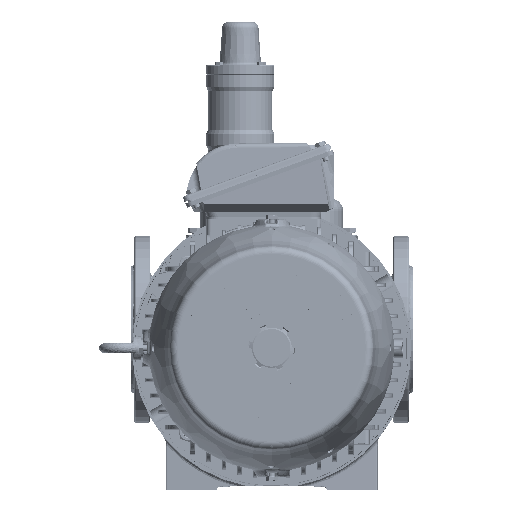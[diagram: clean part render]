
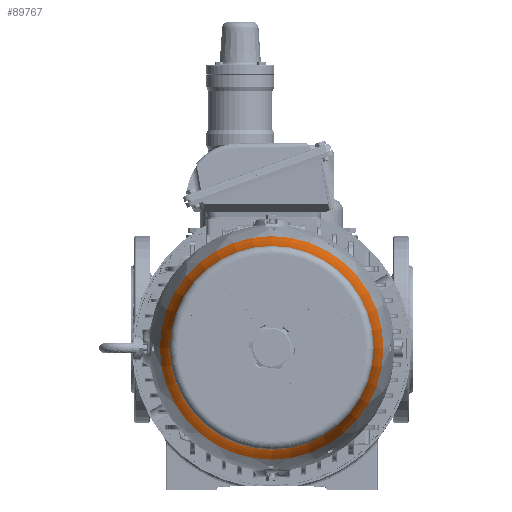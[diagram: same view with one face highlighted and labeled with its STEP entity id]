
A CAD part, top view. The second image highlights one B-rep face of the part: STEP entity #89767.
In plain terms, the highlighted toroidal (fillet/blend) face has major radius 308.616 mm and minor radius 180 mm.
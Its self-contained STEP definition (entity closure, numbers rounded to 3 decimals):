
#57=TOROIDAL_SURFACE('',#96508,308.617,180.);
#17096=FACE_OUTER_BOUND('',#22374,.T.);
#22374=EDGE_LOOP('',(#62687,#62688,#62689,#62690,#62691,#62692));
#28288=CIRCLE('',#96489,142.487);
#28289=CIRCLE('',#96490,142.487);
#28307=CIRCLE('',#96509,180.);
#28308=CIRCLE('',#96510,129.927);
#28309=CIRCLE('',#96511,129.927);
#37207=VERTEX_POINT('',#142569);
#37208=VERTEX_POINT('',#142573);
#37242=VERTEX_POINT('',#142863);
#37243=VERTEX_POINT('',#142865);
#46877=EDGE_CURVE('',#37207,#37208,#28288,.T.);
#46878=EDGE_CURVE('',#37208,#37207,#28289,.T.);
#46913=EDGE_CURVE('',#37207,#37242,#28307,.T.);
#46914=EDGE_CURVE('',#37242,#37243,#28308,.T.);
#46915=EDGE_CURVE('',#37243,#37242,#28309,.T.);
#62687=ORIENTED_EDGE('',*,*,#46878,.F.);
#62688=ORIENTED_EDGE('',*,*,#46877,.F.);
#62689=ORIENTED_EDGE('',*,*,#46913,.T.);
#62690=ORIENTED_EDGE('',*,*,#46914,.T.);
#62691=ORIENTED_EDGE('',*,*,#46915,.T.);
#62692=ORIENTED_EDGE('',*,*,#46913,.F.);
#89767=ADVANCED_FACE('',(#17096),#57,.F.);
#96489=AXIS2_PLACEMENT_3D('',#142574,#109324,#109325);
#96490=AXIS2_PLACEMENT_3D('',#142575,#109326,#109327);
#96508=AXIS2_PLACEMENT_3D('',#142862,#109362,#109363);
#96509=AXIS2_PLACEMENT_3D('',#142864,#109364,#109365);
#96510=AXIS2_PLACEMENT_3D('',#142866,#109366,#109367);
#96511=AXIS2_PLACEMENT_3D('',#142867,#109368,#109369);
#109324=DIRECTION('center_axis',(0.,0.,
-1.));
#109325=DIRECTION('ref_axis',(-1.,0.,0.));
#109326=DIRECTION('center_axis',(0.,0.,
-1.));
#109327=DIRECTION('ref_axis',(-1.,0.,0.));
#109362=DIRECTION('center_axis',(0.,0.,
-1.));
#109363=DIRECTION('ref_axis',(-1.,0.,0.));
#109364=DIRECTION('center_axis',(0.,1.,0.));
#109365=DIRECTION('ref_axis',(1.,0.,0.));
#109366=DIRECTION('center_axis',(0.,0.,
-1.));
#109367=DIRECTION('ref_axis',(-1.,0.,0.));
#109368=DIRECTION('center_axis',(0.,0.,
-1.));
#109369=DIRECTION('ref_axis',(-1.,0.,0.));
#142569=CARTESIAN_POINT('',(142.487,0.,597.799));
#142573=CARTESIAN_POINT('',(-142.487,0.,597.799));
#142574=CARTESIAN_POINT('Origin',(0.,0.,
597.799));
#142575=CARTESIAN_POINT('Origin',(0.,0.,
597.799));
#142862=CARTESIAN_POINT('Origin',(0.,0.,
667.087));
#142863=CARTESIAN_POINT('',(129.927,0.,645.405));
#142864=CARTESIAN_POINT('Origin',(308.617,0.,
667.087));
#142865=CARTESIAN_POINT('',(-129.927,0.,645.405));
#142866=CARTESIAN_POINT('Origin',(0.,0.,
645.405));
#142867=CARTESIAN_POINT('Origin',(0.,0.,
645.405));
